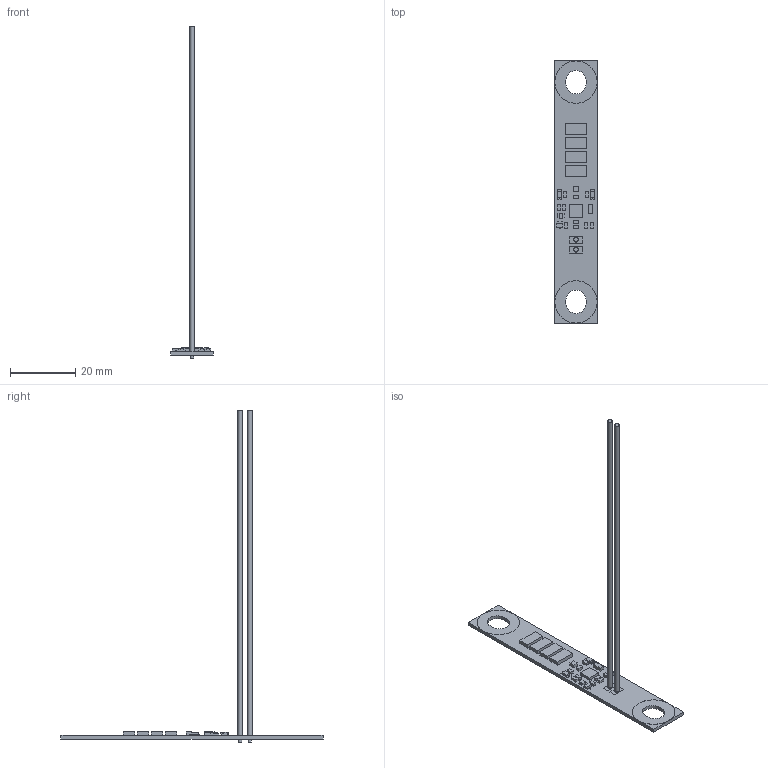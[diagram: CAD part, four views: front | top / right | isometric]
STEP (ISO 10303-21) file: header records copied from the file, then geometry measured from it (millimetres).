
FILE_DESCRIPTION(/* description */ (''),/* implementation_level */ '2;1');
FILE_NAME(/* name */ 'C:/Users/Justinas/Desktop/CM061A_clients v3.step',/* time_stamp */ '2023-05-11T17:16:24+03:00',/* author */ (''),/* organization */ (''),/* preprocessor_version */ 'ST-DEVELOPER v18.1',/* originating_system */ 'Autodesk Translation Framework v10.10.0.1391',/* authorisation */ '');
FILE_SCHEMA (('AUTOMOTIVE_DESIGN { 1 0 10303 214 3 1 1 }'));
Length unit declared in the file: millimetre
Products named in the file (1): CM061A_clients
Bounding box: 13 x 80.5 x 102 mm (x, y, z)
Volume: 1522.8 mm3; surface area: 3589.1 mm2
Topology: 34 solids, 34 shells, 248 faces, 517 edges, 341 vertices
Faces by surface type: plane 234, cylinder 14
Full cylindrical faces by diameter (mm): 1 x2, 1.4 x2
Entity records: 6560 total; most frequent: CARTESIAN_POINT 1114, DIRECTION 1050, ORIENTED_EDGE 1048, EDGE_CURVE 524, LINE 496, VECTOR 496, VERTEX_POINT 341, AXIS2_PLACEMENT_3D 277
